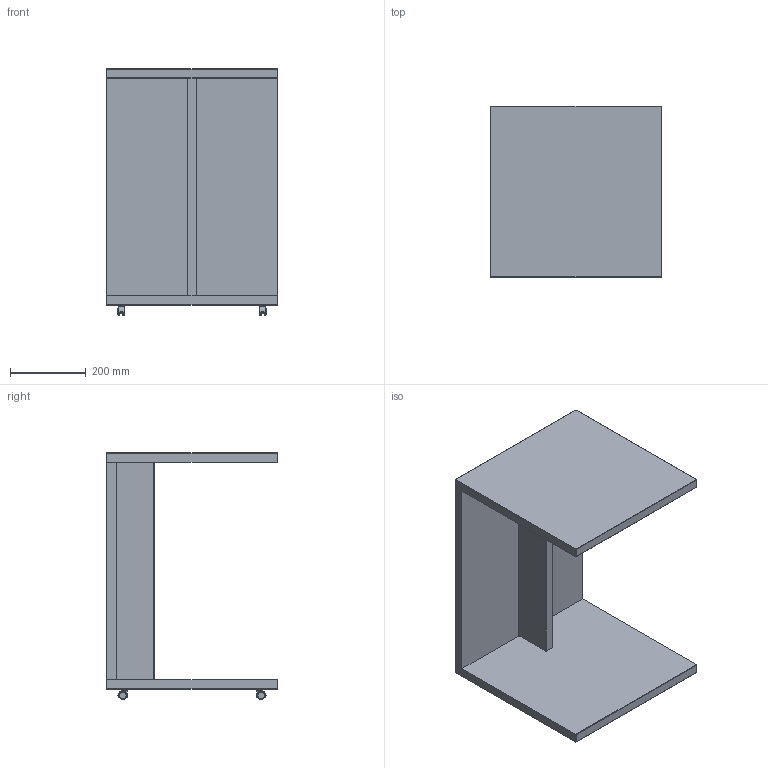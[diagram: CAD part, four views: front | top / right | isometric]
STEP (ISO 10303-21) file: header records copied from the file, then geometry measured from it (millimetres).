
FILE_DESCRIPTION(/* description */ (''),/* implementation_level */ '2;1');
FILE_NAME(/* name */ 'KINOSH~2',/* time_stamp */ '2019-07-31T09:33:53+09:00',/* author */ (''),/* organization */ (''),/* preprocessor_version */ 'ST-DEVELOPER v15',/* originating_system */ '',/* authorisation */ '');
FILE_SCHEMA (('AUTOMOTIVE_DESIGN'));
Length unit declared in the file: millimetre
Products named in the file (1): Document
Bounding box: 450 x 450 x 649.99 mm (x, y, z)
Volume: 18022647.7 mm3; surface area: 1629333.9 mm2
Topology: 20 solids, 20 shells, 562 faces, 1226 edges, 692 vertices
Faces by surface type: bspline 446, plane 116
Entity records: 26650 total; most frequent: CARTESIAN_POINT 19914, ORIENTED_EDGE 2396, EDGE_CURVE 1198, VERTEX_POINT 692, EDGE_LOOP 594, ADVANCED_FACE 562, FACE_OUTER_BOUND 562, B_SPLINE_CURVE_WITH_KNOTS 270
